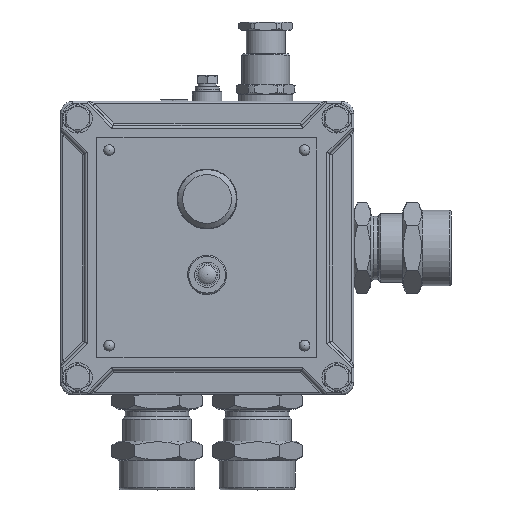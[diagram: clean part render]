
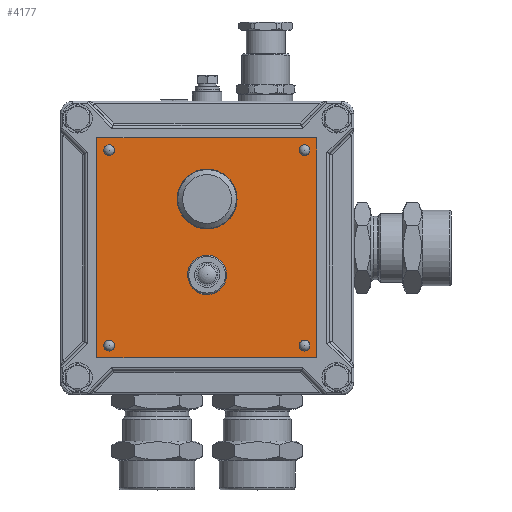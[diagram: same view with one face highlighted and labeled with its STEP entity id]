
A CAD part, top view. The second image highlights one B-rep face of the part: STEP entity #4177.
In plain terms, the highlighted planar face has unit normal (0, 0, 1).
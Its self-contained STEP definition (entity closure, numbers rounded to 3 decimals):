
#4177=ADVANCED_FACE('',(#7865,#7867,#7869,#7871,#7873,#7875,#7877),#7879,.T.);
#7865=FACE_BOUND('',#7866,.T.);
#7866=EDGE_LOOP('',(#12308,#12309,#12310,#12311));
#7867=FACE_BOUND('',#7868,.T.);
#7868=EDGE_LOOP('',(#12312));
#7869=FACE_BOUND('',#7870,.T.);
#7870=EDGE_LOOP('',(#12313));
#7871=FACE_BOUND('',#7872,.T.);
#7872=EDGE_LOOP('',(#12314));
#7873=FACE_BOUND('',#7874,.T.);
#7874=EDGE_LOOP('',(#12315));
#7875=FACE_BOUND('',#7876,.T.);
#7876=EDGE_LOOP('',(#12316));
#7877=FACE_BOUND('',#7878,.T.);
#7878=EDGE_LOOP('',(#12317));
#7879=PLANE('',#7880);
#7880=AXIS2_PLACEMENT_3D('',#7881,#7882,#7883);
#7881=CARTESIAN_POINT('',(0.,0.,1.));
#7882=DIRECTION('',(0.,0.,1.));
#7883=DIRECTION('',(1.,0.,0.));
#12308=ORIENTED_EDGE('',*,*,#14144,.T.);
#12309=ORIENTED_EDGE('',*,*,#14145,.T.);
#12310=ORIENTED_EDGE('',*,*,#14146,.T.);
#12311=ORIENTED_EDGE('',*,*,#14147,.T.);
#12312=ORIENTED_EDGE('',*,*,#14148,.T.);
#12313=ORIENTED_EDGE('',*,*,#14149,.T.);
#12314=ORIENTED_EDGE('',*,*,#14150,.T.);
#12315=ORIENTED_EDGE('',*,*,#14151,.T.);
#12316=ORIENTED_EDGE('',*,*,#14152,.T.);
#12317=ORIENTED_EDGE('',*,*,#14153,.T.);
#14144=EDGE_CURVE('',#15898,#15899,#15900,.T.);
#14145=EDGE_CURVE('',#15899,#15901,#15902,.T.);
#14146=EDGE_CURVE('',#15901,#15903,#15904,.T.);
#14147=EDGE_CURVE('',#15903,#15898,#15905,.T.);
#14148=EDGE_CURVE('',#15906,#15906,#15907,.F.);
#14149=EDGE_CURVE('',#15908,#15908,#15909,.F.);
#14150=EDGE_CURVE('',#15910,#15910,#15911,.F.);
#14151=EDGE_CURVE('',#15912,#15912,#15913,.F.);
#14152=EDGE_CURVE('',#15914,#15914,#15915,.F.);
#14153=EDGE_CURVE('',#15916,#15916,#15917,.F.);
#15898=VERTEX_POINT('',#19956);
#15899=VERTEX_POINT('',#19957);
#15900=LINE('',#19958,#19959);
#15901=VERTEX_POINT('',#19961);
#15902=LINE('',#19962,#19963);
#15903=VERTEX_POINT('',#19965);
#15904=LINE('',#19966,#19967);
#15905=LINE('',#19969,#19970);
#15906=VERTEX_POINT('',#19972);
#15907=CIRCLE('',#19973,12.25);
#15908=VERTEX_POINT('',#19977);
#15909=CIRCLE('',#19978,7.245);
#15910=VERTEX_POINT('',#19982);
#15911=CIRCLE('',#19983,2.2);
#15912=VERTEX_POINT('',#19987);
#15913=CIRCLE('',#19988,2.2);
#15914=VERTEX_POINT('',#19992);
#15915=CIRCLE('',#19993,2.2);
#15916=VERTEX_POINT('',#19997);
#15917=CIRCLE('',#19998,2.2);
#19956=CARTESIAN_POINT('',(45.,-45.,1.));
#19957=CARTESIAN_POINT('',(45.,45.,1.));
#19958=CARTESIAN_POINT('',(45.,-45.,1.));
#19959=VECTOR('',#19960,1.);
#19960=DIRECTION('',(0.,1.,0.));
#19961=CARTESIAN_POINT('',(-45.,45.,1.));
#19962=CARTESIAN_POINT('',(45.,45.,1.));
#19963=VECTOR('',#19964,1.);
#19964=DIRECTION('',(-1.,0.,0.));
#19965=CARTESIAN_POINT('',(-45.,-45.,1.));
#19966=CARTESIAN_POINT('',(-45.,45.,1.));
#19967=VECTOR('',#19968,1.);
#19968=DIRECTION('',(0.,-1.,0.));
#19969=CARTESIAN_POINT('',(-45.,-45.,1.));
#19970=VECTOR('',#19971,1.);
#19971=DIRECTION('',(1.,0.,0.));
#19972=CARTESIAN_POINT('',(12.369,20.,1.));
#19973=AXIS2_PLACEMENT_3D('',#19974,#19975,#19976);
#19974=CARTESIAN_POINT('',(0.119,20.,1.));
#19975=DIRECTION('',(0.,0.,1.));
#19976=DIRECTION('',(1.,0.,0.));
#19977=CARTESIAN_POINT('',(7.245,-12.,1.));
#19978=AXIS2_PLACEMENT_3D('',#19979,#19980,#19981);
#19979=CARTESIAN_POINT('',(0.,-12.,1.));
#19980=DIRECTION('',(0.,0.,1.));
#19981=DIRECTION('',(1.,0.,0.));
#19982=CARTESIAN_POINT('',(-42.2,-40.,1.));
#19983=AXIS2_PLACEMENT_3D('',#19984,#19985,#19986);
#19984=CARTESIAN_POINT('',(-40.,-40.,1.));
#19985=DIRECTION('',(0.,0.,1.));
#19986=DIRECTION('',(-1.,0.,0.));
#19987=CARTESIAN_POINT('',(-42.2,40.,1.));
#19988=AXIS2_PLACEMENT_3D('',#19989,#19990,#19991);
#19989=CARTESIAN_POINT('',(-40.,40.,1.));
#19990=DIRECTION('',(0.,0.,1.));
#19991=DIRECTION('',(-1.,0.,0.));
#19992=CARTESIAN_POINT('',(42.2,40.,1.));
#19993=AXIS2_PLACEMENT_3D('',#19994,#19995,#19996);
#19994=CARTESIAN_POINT('',(40.,40.,1.));
#19995=DIRECTION('',(0.,0.,1.));
#19996=DIRECTION('',(1.,0.,0.));
#19997=CARTESIAN_POINT('',(42.2,-40.,1.));
#19998=AXIS2_PLACEMENT_3D('',#19999,#20000,#20001);
#19999=CARTESIAN_POINT('',(40.,-40.,1.));
#20000=DIRECTION('',(0.,0.,1.));
#20001=DIRECTION('',(1.,0.,0.));
